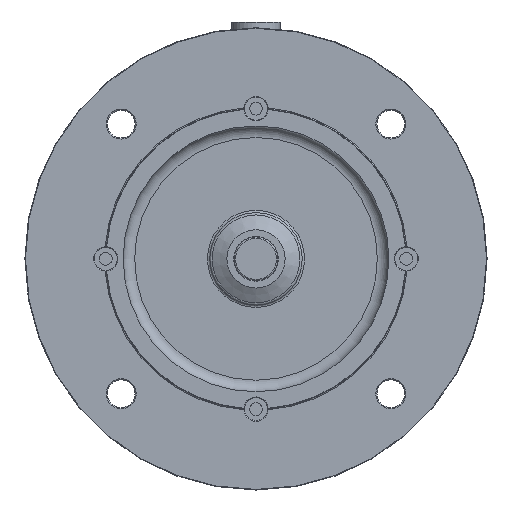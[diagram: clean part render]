
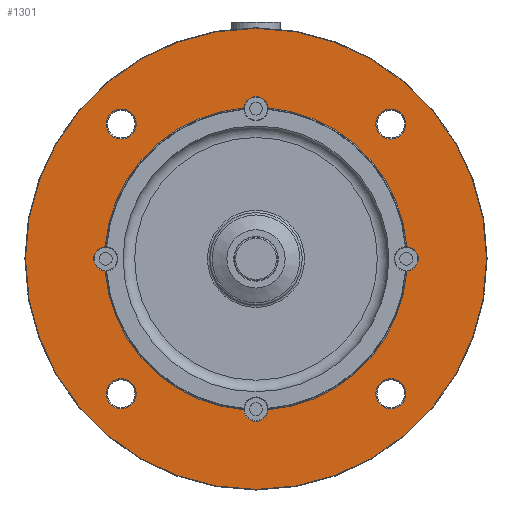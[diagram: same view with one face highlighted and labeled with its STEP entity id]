
A CAD part, front view. The second image highlights one B-rep face of the part: STEP entity #1301.
In plain terms, the highlighted planar face has unit normal (0, -1, 0).
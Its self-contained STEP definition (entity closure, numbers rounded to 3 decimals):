
#537=PLANE('',#7369);
#658=FACE_BOUND('',#2374,.T.);
#659=FACE_BOUND('',#2375,.T.);
#660=FACE_BOUND('',#2376,.T.);
#661=FACE_BOUND('',#2377,.T.);
#662=FACE_BOUND('',#2378,.T.);
#1301=ADVANCED_FACE('',(#2041,#658,#659,#660,#661,#662),#537,.T.);
#2041=FACE_OUTER_BOUND('',#2373,.T.);
#2373=EDGE_LOOP('',(#3667));
#2374=EDGE_LOOP('',(#3668));
#2375=EDGE_LOOP('',(#3669));
#2376=EDGE_LOOP('',(#3670));
#2377=EDGE_LOOP('',(#3671));
#2378=EDGE_LOOP('',(#3672,#3673,#3674,#3675,#3676,#3677,#3678,#3679));
#3667=ORIENTED_EDGE('',*,*,#5951,.T.);
#3668=ORIENTED_EDGE('',*,*,#5952,.T.);
#3669=ORIENTED_EDGE('',*,*,#5953,.T.);
#3670=ORIENTED_EDGE('',*,*,#5954,.T.);
#3671=ORIENTED_EDGE('',*,*,#5955,.T.);
#3672=ORIENTED_EDGE('',*,*,#5956,.T.);
#3673=ORIENTED_EDGE('',*,*,#5957,.T.);
#3674=ORIENTED_EDGE('',*,*,#5958,.T.);
#3675=ORIENTED_EDGE('',*,*,#5959,.T.);
#3676=ORIENTED_EDGE('',*,*,#5960,.T.);
#3677=ORIENTED_EDGE('',*,*,#5961,.T.);
#3678=ORIENTED_EDGE('',*,*,#5962,.T.);
#3679=ORIENTED_EDGE('',*,*,#5963,.T.);
#5269=VERTEX_POINT('',#10953);
#5270=VERTEX_POINT('',#10955);
#5271=VERTEX_POINT('',#10957);
#5272=VERTEX_POINT('',#10959);
#5273=VERTEX_POINT('',#10961);
#5274=VERTEX_POINT('',#10963);
#5275=VERTEX_POINT('',#10964);
#5276=VERTEX_POINT('',#10966);
#5277=VERTEX_POINT('',#10968);
#5278=VERTEX_POINT('',#10970);
#5279=VERTEX_POINT('',#10972);
#5280=VERTEX_POINT('',#10974);
#5281=VERTEX_POINT('',#10976);
#5951=EDGE_CURVE('',#5269,#5269,#6740,.T.);
#5952=EDGE_CURVE('',#5270,#5270,#6741,.T.);
#5953=EDGE_CURVE('',#5271,#5271,#6742,.T.);
#5954=EDGE_CURVE('',#5272,#5272,#6743,.T.);
#5955=EDGE_CURVE('',#5273,#5273,#6744,.T.);
#5956=EDGE_CURVE('',#5274,#5275,#6745,.T.);
#5957=EDGE_CURVE('',#5275,#5276,#6746,.T.);
#5958=EDGE_CURVE('',#5276,#5277,#6747,.T.);
#5959=EDGE_CURVE('',#5277,#5278,#6748,.T.);
#5960=EDGE_CURVE('',#5278,#5279,#6749,.T.);
#5961=EDGE_CURVE('',#5279,#5280,#6750,.T.);
#5962=EDGE_CURVE('',#5280,#5281,#6751,.T.);
#5963=EDGE_CURVE('',#5281,#5274,#6752,.T.);
#6740=CIRCLE('',#7356,99.75);
#6741=CIRCLE('',#7357,6.5);
#6742=CIRCLE('',#7358,6.5);
#6743=CIRCLE('',#7359,6.5);
#6744=CIRCLE('',#7360,6.5);
#6745=CIRCLE('',#7361,5.25);
#6746=CIRCLE('',#7362,65.5);
#6747=CIRCLE('',#7363,5.25);
#6748=CIRCLE('',#7364,65.5);
#6749=CIRCLE('',#7365,5.25);
#6750=CIRCLE('',#7366,65.5);
#6751=CIRCLE('',#7367,5.25);
#6752=CIRCLE('',#7368,65.5);
#7356=AXIS2_PLACEMENT_3D('',#10952,#8509,#8510);
#7357=AXIS2_PLACEMENT_3D('',#10954,#8511,#8512);
#7358=AXIS2_PLACEMENT_3D('',#10956,#8513,#8514);
#7359=AXIS2_PLACEMENT_3D('',#10958,#8515,#8516);
#7360=AXIS2_PLACEMENT_3D('',#10960,#8517,#8518);
#7361=AXIS2_PLACEMENT_3D('',#10962,#8519,#8520);
#7362=AXIS2_PLACEMENT_3D('',#10965,#8521,#8522);
#7363=AXIS2_PLACEMENT_3D('',#10967,#8523,#8524);
#7364=AXIS2_PLACEMENT_3D('',#10969,#8525,#8526);
#7365=AXIS2_PLACEMENT_3D('',#10971,#8527,#8528);
#7366=AXIS2_PLACEMENT_3D('',#10973,#8529,#8530);
#7367=AXIS2_PLACEMENT_3D('',#10975,#8531,#8532);
#7368=AXIS2_PLACEMENT_3D('',#10977,#8533,#8534);
#7369=AXIS2_PLACEMENT_3D('',#10978,#8535,#8536);
#8509=DIRECTION('',(0.,-1.,0.));
#8510=DIRECTION('',(0.,0.,-1.));
#8511=DIRECTION('',(0.,1.,0.));
#8512=DIRECTION('',(0.,0.,-1.));
#8513=DIRECTION('',(0.,1.,0.));
#8514=DIRECTION('',(0.,0.,-1.));
#8515=DIRECTION('',(0.,1.,0.));
#8516=DIRECTION('',(0.,0.,-1.));
#8517=DIRECTION('',(0.,1.,0.));
#8518=DIRECTION('',(0.,0.,-1.));
#8519=DIRECTION('',(0.,1.,0.));
#8520=DIRECTION('',(0.,0.,-1.));
#8521=DIRECTION('',(0.,1.,0.));
#8522=DIRECTION('',(0.,0.,-1.));
#8523=DIRECTION('',(0.,1.,0.));
#8524=DIRECTION('',(0.,0.,-1.));
#8525=DIRECTION('',(0.,1.,0.));
#8526=DIRECTION('',(0.,0.,-1.));
#8527=DIRECTION('',(0.,1.,0.));
#8528=DIRECTION('',(0.,0.,-1.));
#8529=DIRECTION('',(0.,1.,0.));
#8530=DIRECTION('',(0.,0.,-1.));
#8531=DIRECTION('',(0.,1.,0.));
#8532=DIRECTION('',(0.,0.,-1.));
#8533=DIRECTION('',(0.,1.,0.));
#8534=DIRECTION('',(0.,0.,-1.));
#8535=DIRECTION('',(0.,-1.,0.));
#8536=DIRECTION('',(0.,0.,-1.));
#10952=CARTESIAN_POINT('',(0.,0.,0.));
#10953=CARTESIAN_POINT('',(0.,0.,-99.75));
#10954=CARTESIAN_POINT('',(58.336,0.,58.336));
#10955=CARTESIAN_POINT('',(58.336,0.,51.836));
#10956=CARTESIAN_POINT('',(58.336,0.,-58.336));
#10957=CARTESIAN_POINT('',(58.336,0.,-64.836));
#10958=CARTESIAN_POINT('',(-58.336,0.,-58.336));
#10959=CARTESIAN_POINT('',(-58.336,0.,-64.836));
#10960=CARTESIAN_POINT('',(-58.336,0.,58.336));
#10961=CARTESIAN_POINT('',(-58.336,0.,51.836));
#10962=CARTESIAN_POINT('',(65.,0.,0.));
#10963=CARTESIAN_POINT('',(65.29,0.,5.242));
#10964=CARTESIAN_POINT('',(65.29,0.,-5.242));
#10965=CARTESIAN_POINT('',(0.,0.,0.));
#10966=CARTESIAN_POINT('',(5.242,0.,-65.29));
#10967=CARTESIAN_POINT('',(0.,0.,-65.));
#10968=CARTESIAN_POINT('',(-5.242,0.,-65.29));
#10969=CARTESIAN_POINT('',(0.,0.,0.));
#10970=CARTESIAN_POINT('',(-65.29,0.,-5.242));
#10971=CARTESIAN_POINT('',(-65.,0.,0.));
#10972=CARTESIAN_POINT('',(-65.29,0.,5.242));
#10973=CARTESIAN_POINT('',(0.,0.,0.));
#10974=CARTESIAN_POINT('',(-5.242,0.,65.29));
#10975=CARTESIAN_POINT('',(0.,0.,65.));
#10976=CARTESIAN_POINT('',(5.242,0.,65.29));
#10977=CARTESIAN_POINT('',(0.,0.,0.));
#10978=CARTESIAN_POINT('',(0.,0.,0.));
